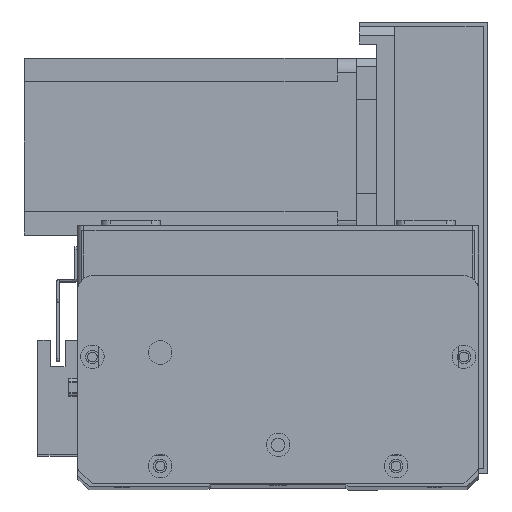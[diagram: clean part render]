
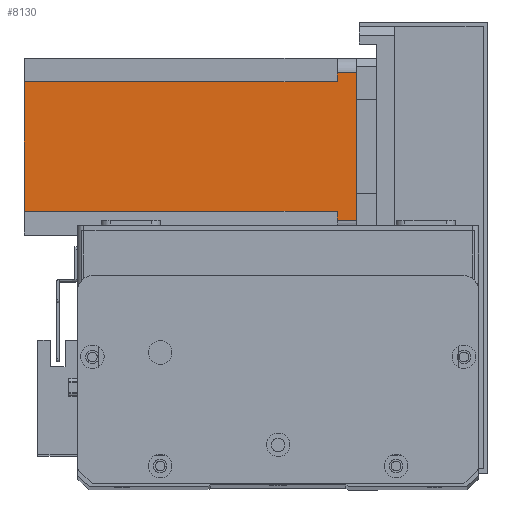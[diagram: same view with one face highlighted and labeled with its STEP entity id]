
A CAD part, top view. The second image highlights one B-rep face of the part: STEP entity #8130.
In plain terms, the highlighted planar face has unit normal (0, 0, 1) as drawn and (0, 1, 0) by its records, which use the part's own axes.
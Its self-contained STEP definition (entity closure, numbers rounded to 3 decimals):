
#354 = LINE ( 'NONE', #13558, #17724 ) ;
#688 = EDGE_CURVE ( 'NONE', #19659, #4611, #12647, .T. ) ;
#735 = ORIENTED_EDGE ( 'NONE', *, *, #27457, .T. ) ;
#1072 = DIRECTION ( 'NONE',  ( 0., 0., 1. ) ) ;
#1099 = EDGE_CURVE ( 'NONE', #4611, #23391, #354, .T. ) ;
#1140 = ORIENTED_EDGE ( 'NONE', *, *, #26943, .F. ) ;
#1311 = VECTOR ( 'NONE', #7094, 1000. ) ;
#1944 = ORIENTED_EDGE ( 'NONE', *, *, #25165, .T. ) ;
#3370 = DIRECTION ( 'NONE',  ( -1., 0., 0. ) ) ;
#3604 = CARTESIAN_POINT ( 'NONE',  ( 52., 60., -112.5 ) ) ;
#4563 = EDGE_LOOP ( 'NONE', ( #26032, #1944, #11089, #1140, #735, #8275, #4932, #17749 ) ) ;
#4611 = VERTEX_POINT ( 'NONE', #23714 ) ;
#4695 = CARTESIAN_POINT ( 'NONE',  ( 52., 60., -6.5 ) ) ;
#4932 = ORIENTED_EDGE ( 'NONE', *, *, #688, .T. ) ;
#5981 = DIRECTION ( 'NONE',  ( 0., 0., 1. ) ) ;
#6191 = AXIS2_PLACEMENT_3D ( 'NONE', #11551, #10558, #10523 ) ;
#6222 = LINE ( 'NONE', #16725, #23831 ) ;
#7094 = DIRECTION ( 'NONE',  ( 1., 0., 0. ) ) ;
#8130 = ADVANCED_FACE ( 'NONE', ( #22410 ), #10909, .T. ) ;
#8178 = LINE ( 'NONE', #26526, #13416 ) ;
#8275 = ORIENTED_EDGE ( 'NONE', *, *, #28082, .F. ) ;
#9215 = VECTOR ( 'NONE', #17360, 1000. ) ;
#9392 = VERTEX_POINT ( 'NONE', #16850 ) ;
#10504 = CARTESIAN_POINT ( 'NONE',  ( 55., 60., 0. ) ) ;
#10523 = DIRECTION ( 'NONE',  ( 0., 0., 1. ) ) ;
#10558 = DIRECTION ( 'NONE',  ( 0., 1., 0. ) ) ;
#10909 = PLANE ( 'NONE',  #6191 ) ;
#11089 = ORIENTED_EDGE ( 'NONE', *, *, #26278, .F. ) ;
#11551 = CARTESIAN_POINT ( 'NONE',  ( 0., 60., -112.5 ) ) ;
#11739 = LINE ( 'NONE', #3604, #22623 ) ;
#12550 = VERTEX_POINT ( 'NONE', #27343 ) ;
#12647 = LINE ( 'NONE', #28425, #22828 ) ;
#12990 = CARTESIAN_POINT ( 'NONE',  ( 8., 60., -112.5 ) ) ;
#13416 = VECTOR ( 'NONE', #13610, 1000. ) ;
#13558 = CARTESIAN_POINT ( 'NONE',  ( 5., 60., -112.5 ) ) ;
#13610 = DIRECTION ( 'NONE',  ( 0., 0., -1. ) ) ;
#14699 = CARTESIAN_POINT ( 'NONE',  ( 0., 60., -112.5 ) ) ;
#14767 = VECTOR ( 'NONE', #3370, 1000. ) ;
#14998 = EDGE_CURVE ( 'NONE', #20379, #23391, #6222, .T. ) ;
#15647 = CARTESIAN_POINT ( 'NONE',  ( 8., 60., -112.5 ) ) ;
#16725 = CARTESIAN_POINT ( 'NONE',  ( 0., 60., 0. ) ) ;
#16758 = DIRECTION ( 'NONE',  ( -1., 0., 0. ) ) ;
#16850 = CARTESIAN_POINT ( 'NONE',  ( 52., 60., -112.5 ) ) ;
#17360 = DIRECTION ( 'NONE',  ( 0., 0., -1. ) ) ;
#17724 = VECTOR ( 'NONE', #1072, 1000. ) ;
#17749 = ORIENTED_EDGE ( 'NONE', *, *, #1099, .T. ) ;
#19424 = CARTESIAN_POINT ( 'NONE',  ( 55., 60., -6.5 ) ) ;
#19659 = VERTEX_POINT ( 'NONE', #25076 ) ;
#19937 = LINE ( 'NONE', #4695, #1311 ) ;
#20379 = VERTEX_POINT ( 'NONE', #10504 ) ;
#20527 = LINE ( 'NONE', #14699, #14767 ) ;
#22410 = FACE_OUTER_BOUND ( 'NONE', #4563, .T. ) ;
#22623 = VECTOR ( 'NONE', #5981, 1000. ) ;
#22828 = VECTOR ( 'NONE', #26052, 1000. ) ;
#23391 = VERTEX_POINT ( 'NONE', #25944 ) ;
#23714 = CARTESIAN_POINT ( 'NONE',  ( 5., 60., -6.5 ) ) ;
#23831 = VECTOR ( 'NONE', #16758, 1000. ) ;
#25076 = CARTESIAN_POINT ( 'NONE',  ( 8., 60., -6.5 ) ) ;
#25165 = EDGE_CURVE ( 'NONE', #20379, #28102, #8178, .T. ) ;
#25944 = CARTESIAN_POINT ( 'NONE',  ( 5., 60., 0. ) ) ;
#26032 = ORIENTED_EDGE ( 'NONE', *, *, #14998, .F. ) ;
#26052 = DIRECTION ( 'NONE',  ( -1., 0., 0. ) ) ;
#26278 = EDGE_CURVE ( 'NONE', #12550, #28102, #19937, .T. ) ;
#26526 = CARTESIAN_POINT ( 'NONE',  ( 55., 60., -112.5 ) ) ;
#26612 = LINE ( 'NONE', #12990, #9215 ) ;
#26943 = EDGE_CURVE ( 'NONE', #9392, #12550, #11739, .T. ) ;
#27141 = VERTEX_POINT ( 'NONE', #15647 ) ;
#27343 = CARTESIAN_POINT ( 'NONE',  ( 52., 60., -6.5 ) ) ;
#27457 = EDGE_CURVE ( 'NONE', #9392, #27141, #20527, .T. ) ;
#28082 = EDGE_CURVE ( 'NONE', #19659, #27141, #26612, .T. ) ;
#28102 = VERTEX_POINT ( 'NONE', #19424 ) ;
#28425 = CARTESIAN_POINT ( 'NONE',  ( 8., 60., -6.5 ) ) ;
